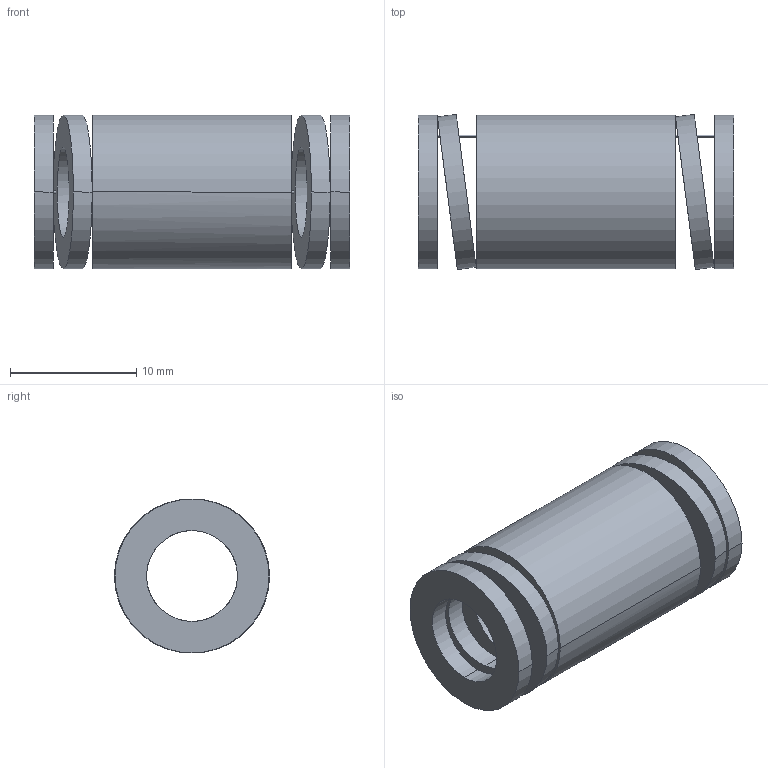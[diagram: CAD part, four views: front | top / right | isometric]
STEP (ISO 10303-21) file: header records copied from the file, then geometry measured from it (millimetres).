
FILE_DESCRIPTION(('CATIA V5 STEP Exchange'),'2;1');
FILE_NAME('C:\Users\Utente\Desktop\IO LAVORO\3D X SITO CF\X SITO\3D files 392B\392-B13-025.stp','2021-08-12T12:51:42+00:00',('none'),('none'),'CATIA Version 5 Release 20 GA (IN-10)','CATIA V5 STEP AP203','none');
FILE_SCHEMA(('CONFIG_CONTROL_DESIGN'));
Length unit declared in the file: millimetre
Products named in the file (1): 392-B13-025
Bounding box: 25 x 12.29 x 12.2 mm (x, y, z)
Volume: 1653.3 mm3; surface area: 2086.2 mm2
Topology: 1 solids, 1 shells, 38 faces, 92 edges, 64 vertices
Faces by surface type: cylinder 28, plane 10
Entity records: 1563 total; most frequent: CARTESIAN_POINT 670, ORIENTED_EDGE 184, DIRECTION 131, EDGE_CURVE 92, AXIS2_PLACEMENT_3D 66, VERTEX_POINT 64, EDGE_LOOP 56, ADVANCED_FACE 38
